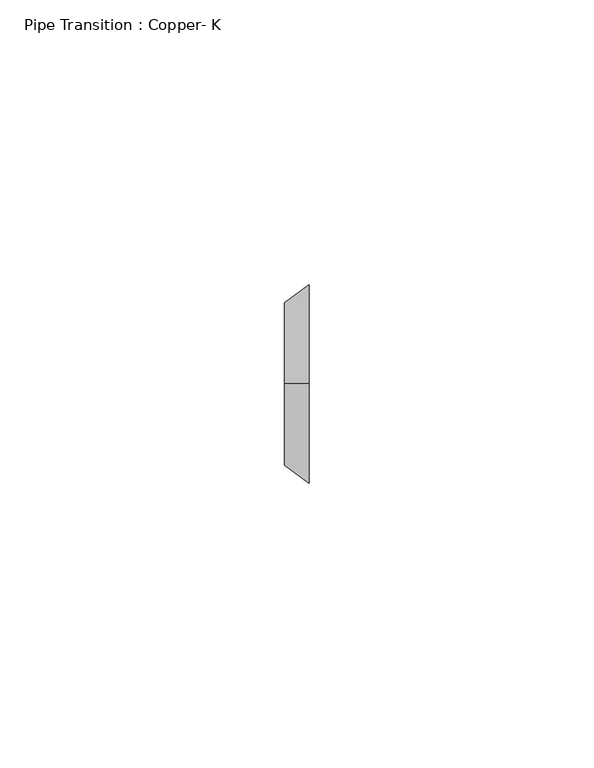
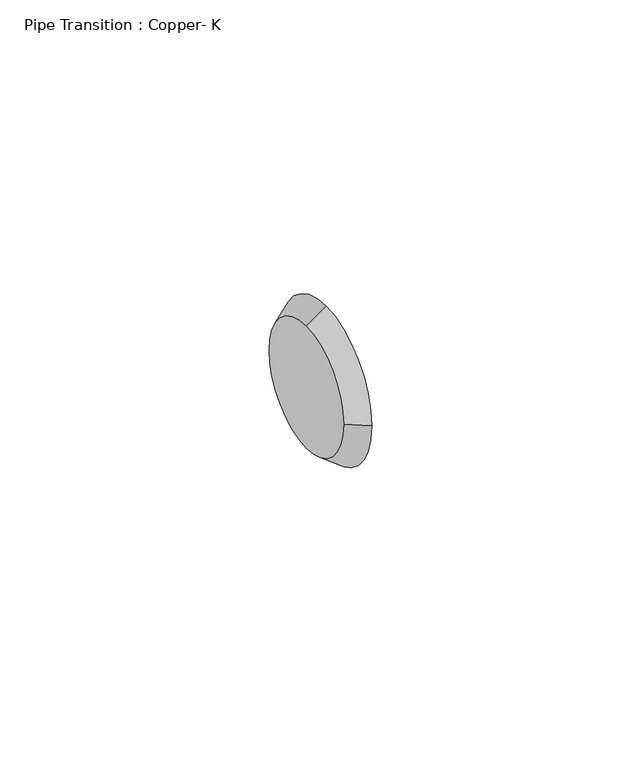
"""IFC4 building model written with IfcOpenShell, lengths in millimetres: pipe fitting geometry, Pipe Transition : Copper- K."""

from ifc_helpers import new_model, si_unit, frame, origin, place, context, project, spatial, polyline, circle_curve, source, transform, mapped, element, save
from ifc_brep_helpers import plane_surface, revolved_surface, advanced_brep


def pipe_transition_copper_k_f0b34d0f(model_context):
    return source(origin(), model_context, "Body", "AdvancedBrep", [
        advanced_brep(
        [(4.365625, 0.0, 17.4625), (4.365625, -17.4625, 0.0), (4.365625, 0.0, -17.4625), (4.365625, 17.4625, 0.0), (0.0, 0.0, 14.2875), (0.0, 14.2875, 0.0), (0.0, 0.0, -14.2875), (0.0, -14.2875, 0.0)],
        [
            (0, 1, circle_curve(frame((4.365625, 0.0, 0.0), z_axis=(1.0, 0.0, 0.0), x_axis=(0.0, 0.0, 1.0)), 17.4625)),
            (1, 2, circle_curve(frame((4.365625, 0.0, 0.0), z_axis=(1.0, 0.0, 0.0), x_axis=(0.0, -1.0, 0.0)), 17.4625)),
            (2, 3, circle_curve(frame((4.365625, 0.0, 0.0), z_axis=(1.0, 0.0, 0.0), x_axis=(0.0, 0.0, -1.0)), 17.4625)),
            (3, 0, circle_curve(frame((4.365625, 0.0, 0.0), z_axis=(1.0, 0.0, 0.0), x_axis=(0.0, 1.0, 0.0)), 17.4625)),
            (4, 5, circle_curve(frame((0.0, 0.0, 0.0), z_axis=(-1.0, 0.0, 0.0), x_axis=(0.0, 1.0, 0.0)), 14.2875)),
            (5, 6, circle_curve(frame((0.0, 0.0, 0.0), z_axis=(-1.0, 0.0, 0.0), x_axis=(0.0, 0.0, -1.0)), 14.2875)),
            (6, 7, circle_curve(frame((0.0, 0.0, 0.0), z_axis=(-1.0, 0.0, 0.0), x_axis=(0.0, -1.0, 0.0)), 14.2875)),
            (7, 4, circle_curve(frame((0.0, 0.0, 0.0), z_axis=(-1.0, 0.0, 0.0), x_axis=(0.0, 0.0, 1.0)), 14.2875)),
            (7, 1),
            (0, 4),
            (6, 2),
            (5, 3),
        ],
        [
            plane_surface(frame((4.365625, 0.0, 0.0), z_axis=(1.0, 0.0, 0.0), x_axis=(0.0, -1.0, 0.0))),
            plane_surface(frame((0.0, 0.0, 0.0), z_axis=(-1.0, 0.0, 0.0), x_axis=(0.0, -1.0, 0.0))),
            revolved_surface(polyline([(0.0, -14.2875, 0.0), (4.365624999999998, -17.4625, 0.0)]), (-19.6453125, 0.0, 0.0), (1.0, 0.0, 0.0)),
            revolved_surface(polyline([(0.0, 0.0, -14.2875), (4.365624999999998, 0.0, -17.4625)]), (-19.6453125, 0.0, 0.0), (1.0, 0.0, 0.0)),
            revolved_surface(polyline([(0.0, 14.2875, 0.0), (4.365624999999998, 17.4625, 0.0)]), (-19.6453125, 0.0, 0.0), (1.0, 0.0, 0.0)),
            revolved_surface(polyline([(0.0, 0.0, 14.2875), (4.365624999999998, 0.0, 17.4625)]), (-19.6453125, 0.0, 0.0), (1.0, 0.0, 0.0)),
        ],
        [
            (0, [[1, 2, 3, 4]]),
            (1, [[5, 6, 7, 8]]),
            (2, [[-8, 9, -1, 10]]),
            (3, [[-7, 11, -2, -9]]),
            (4, [[-6, 12, -3, -11]]),
            (5, [[-5, -10, -4, -12]]),
        ],
    ),
        advanced_brep(
        [(4.365625, 0.0, 17.4625), (4.365625, -17.4625, 0.0), (4.365625, 0.0, -17.4625), (4.365625, 17.4625, 0.0), (0.0, 0.0, 14.2875), (0.0, 14.2875, 0.0), (0.0, 0.0, -14.2875), (0.0, -14.2875, 0.0)],
        [
            (0, 1, circle_curve(frame((4.365625, 0.0, 0.0), z_axis=(1.0, 0.0, -1.9150692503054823e-12), x_axis=(1.9151419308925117e-12, 0.0, 1.0)), 17.4625)),
            (1, 2, circle_curve(frame((4.365625, 0.0, 0.0), z_axis=(1.0, 0.0, -1.8375554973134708e-12), x_axis=(0.0, -1.0, 0.0)), 17.4625)),
            (2, 3, circle_curve(frame((4.365625, 0.0, 0.0), z_axis=(1.0, 0.0, -2.9852811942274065e-12), x_axis=(-2.985212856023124e-12, 0.0, -1.0)), 17.4625)),
            (3, 0, circle_curve(frame((4.365625, 0.0, 0.0), z_axis=(1.0, 0.0, 0.0), x_axis=(0.0, 1.0, 0.0)), 17.4625)),
            (4, 5, circle_curve(frame((0.0, 0.0, 0.0), z_axis=(-1.0, 0.0, 0.0), x_axis=(0.0, 1.0, 0.0)), 14.2875)),
            (5, 6, circle_curve(frame((0.0, 0.0, 0.0), z_axis=(-1.0, 0.0, 2.9852811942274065e-12), x_axis=(-2.985212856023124e-12, 0.0, -1.0)), 14.2875)),
            (6, 7, circle_curve(frame((0.0, 0.0, 0.0), z_axis=(-1.0, 0.0, 1.8375554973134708e-12), x_axis=(0.0, -1.0, 0.0)), 14.2875)),
            (7, 4, circle_curve(frame((0.0, 0.0, 0.0), z_axis=(-1.0, 0.0, 1.9150692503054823e-12), x_axis=(1.9151419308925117e-12, 0.0, 1.0)), 14.2875)),
            (7, 1),
            (0, 4),
            (6, 2),
            (5, 3),
        ],
        [
            plane_surface(frame((4.365625, 0.0, 0.0), z_axis=(1.0, 0.0, 0.0), x_axis=(0.0, -1.0, 0.0))),
            plane_surface(frame((0.0, 0.0, 0.0), z_axis=(-1.0, 0.0, 0.0), x_axis=(0.0, -1.0, 0.0))),
            revolved_surface(polyline([(-2.7363000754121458e-11, -14.2874999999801, 0.0), (4.365624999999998, -17.4625, 0.0)]), (-19.6453125, 0.0, 0.0), (1.0, 0.0, -1.9150692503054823e-12)),
            revolved_surface(polyline([(-2.62510013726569e-11, 0.0, -14.287499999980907), (4.365624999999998, 0.0, -17.4625)]), (-19.6453125, 0.0, 0.0), (1.0, 0.0, -1.8375554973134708e-12)),
            revolved_surface(polyline([(0.0, 14.2875, 0.0), (4.36562500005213, 17.462500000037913, 0.0)]), (-19.6453125, 0.0, 0.0), (1.0, 0.0, -2.9852811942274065e-12)),
            revolved_surface(polyline([(0.0, 0.0, 14.2875), (4.365624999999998, 0.0, 17.4625)]), (-19.6453125, 0.0, 0.0), (1.0, 0.0, 0.0)),
        ],
        [
            (0, [[1, 2, 3, 4]]),
            (1, [[5, 6, 7, 8]]),
            (2, [[-8, 9, -1, 10]]),
            (3, [[-7, 11, -2, -9]]),
            (4, [[-6, 12, -3, -11]]),
            (5, [[-5, -10, -4, -12]]),
        ],
    ),
    ])


if __name__ == "__main__":
    model = new_model("IFC4")
    model_context = context("Model", 3, world=origin())
    ifc_project = project(units=[si_unit("LENGTHUNIT", "METRE", prefix="MILLI")], contexts=[model_context])
    site = spatial("IfcSite", under=ifc_project)
    building = spatial("IfcBuilding", under=site)
    placement = place(None, origin())
    pipe_transition_copper_k_shape = pipe_transition_copper_k_f0b34d0f(model_context)
    element("IfcPipeFitting", 1, ObjectType="Pipe Transition : Copper- K", at=placement, inside=building, context=model_context, shape_type="MappedRepresentation", body=[
        mapped(pipe_transition_copper_k_shape, transform((0.0, 0.0, 0.0), x_axis=(1.0, 0.0, 0.0), y_axis=(0.0, 1.0, 0.0), z_axis=(0.0, 0.0, 1.0))),
    ])
    save(model, "model.ifc")
